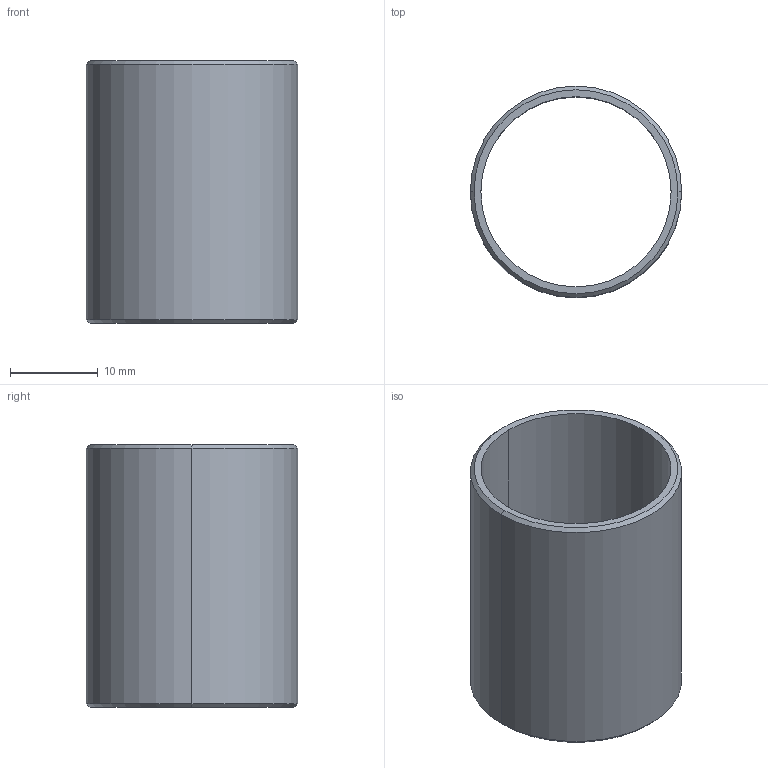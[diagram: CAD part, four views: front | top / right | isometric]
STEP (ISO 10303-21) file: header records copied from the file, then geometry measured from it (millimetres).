
FILE_DESCRIPTION (( 'STEP AP203' ), '1' );
FILE_NAME ('11-0206-05_outokumpu.step', '2015-08-11T09:46:53', ( '' ), ( '' ), 'SwSTEP 2.0', 'SolidWorks 2008', '' );
FILE_SCHEMA (( 'CONFIG_CONTROL_DESIGN' ));
Length unit declared in the file: millimetre
Products named in the file (1): 11-0206-05_outokumpu
Bounding box: 24.12 x 24.12 x 30 mm (x, y, z)
Volume: 2596 mm3; surface area: 4454.3 mm2
Topology: 1 solids, 1 shells, 10 faces, 20 edges, 12 vertices
Faces by surface type: cone 4, cylinder 4, plane 2
Entity records: 345 total; most frequent: DIRECTION 54, CARTESIAN_POINT 43, ORIENTED_EDGE 40, AXIS2_PLACEMENT_3D 23, EDGE_CURVE 20, VERTEX_POINT 12, EDGE_LOOP 12, CIRCLE 12
